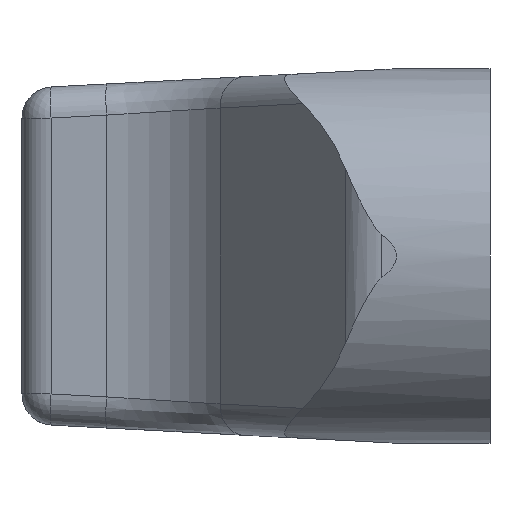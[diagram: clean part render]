
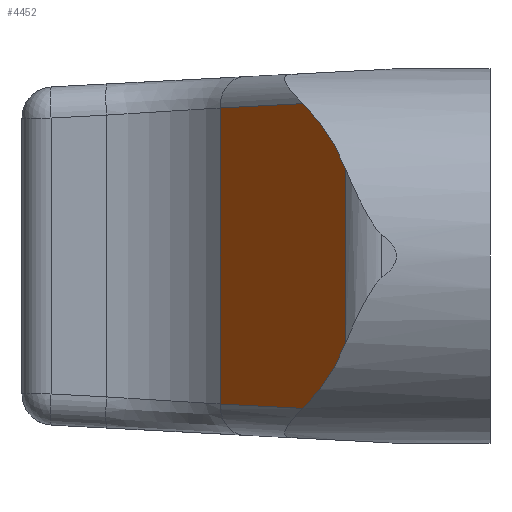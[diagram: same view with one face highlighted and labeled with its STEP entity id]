
A CAD part, left-side view. The second image highlights one B-rep face of the part: STEP entity #4452.
In plain terms, the highlighted planar face has unit normal (-0.602, 0.798, 0).
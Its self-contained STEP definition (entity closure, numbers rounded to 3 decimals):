
#24 = VECTOR ( 'NONE', #249, 1000. ) ;
#66 = CARTESIAN_POINT ( 'NONE',  ( 0.68, 1.621, 2.775 ) ) ;
#143 = VECTOR ( 'NONE', #2760, 1000. ) ;
#202 = FACE_OUTER_BOUND ( 'NONE', #3118, .T. ) ;
#249 = DIRECTION ( 'NONE',  ( 0., 0., -1. ) ) ;
#255 =( BOUNDED_CURVE ( )  B_SPLINE_CURVE ( 3, ( #3621, #2720, #3446, #1525 ),
 .UNSPECIFIED., .F., .F. ) 
 B_SPLINE_CURVE_WITH_KNOTS ( ( 4, 4 ),
 ( 0.481, 0.951 ),
 .UNSPECIFIED. ) 
 CURVE ( )  GEOMETRIC_REPRESENTATION_ITEM ( )  RATIONAL_B_SPLINE_CURVE ( ( 1., 0.982, 0.982, 1. ) ) 
 REPRESENTATION_ITEM ( '' )  );
#300 = VERTEX_POINT ( 'NONE', #66 ) ;
#539 = CARTESIAN_POINT ( 'NONE',  ( 6.001, 5.633, 4.745 ) ) ;
#569 = CARTESIAN_POINT ( 'NONE',  ( 2.514, 3.003, 4.883 ) ) ;
#634 = DIRECTION ( 'NONE',  ( 0.602, -0.798, 0. ) ) ;
#743 = CARTESIAN_POINT ( 'NONE',  ( 0.68, 1.621, 6. ) ) ;
#805 = CARTESIAN_POINT ( 'NONE',  ( 0.68, 1.621, 2.775 ) ) ;
#824 = CARTESIAN_POINT ( 'NONE',  ( 1.119, 1.952, 3.616 ) ) ;
#836 = ORIENTED_EDGE ( 'NONE', *, *, #3046, .F. ) ;
#1027 = AXIS2_PLACEMENT_3D ( 'NONE', #2876, #634, #3255 ) ;
#1165 = EDGE_CURVE ( 'NONE', #1816, #4530, #3865, .T. ) ;
#1243 = VERTEX_POINT ( 'NONE', #1875 ) ;
#1255 =( BOUNDED_CURVE ( )  B_SPLINE_CURVE ( 3, ( #1507, #1887, #824, #805 ),
 .UNSPECIFIED., .F., .F. ) 
 B_SPLINE_CURVE_WITH_KNOTS ( ( 4, 4 ),
 ( 5.332, 5.802 ),
 .UNSPECIFIED. ) 
 CURVE ( )  GEOMETRIC_REPRESENTATION_ITEM ( )  RATIONAL_B_SPLINE_CURVE ( ( 1., 0.982, 0.982, 1. ) ) 
 REPRESENTATION_ITEM ( '' )  );
#1313 = EDGE_CURVE ( 'NONE', #1816, #1243, #3268, .T. ) ;
#1342 = EDGE_CURVE ( 'NONE', #3454, #1243, #4066, .T. ) ;
#1507 = CARTESIAN_POINT ( 'NONE',  ( 2.514, 3.003, 4.883 ) ) ;
#1525 = CARTESIAN_POINT ( 'NONE',  ( 2.514, 3.003, -4.883 ) ) ;
#1691 = EDGE_CURVE ( 'NONE', #3508, #3454, #255, .T. ) ;
#1751 = ORIENTED_EDGE ( 'NONE', *, *, #1165, .F. ) ;
#1757 = ORIENTED_EDGE ( 'NONE', *, *, #2988, .F. ) ;
#1760 = CARTESIAN_POINT ( 'NONE',  ( 2.514, 3.003, -4.883 ) ) ;
#1816 = VERTEX_POINT ( 'NONE', #2558 ) ;
#1875 = CARTESIAN_POINT ( 'NONE',  ( 6.025, 5.651, -4.744 ) ) ;
#1887 = CARTESIAN_POINT ( 'NONE',  ( 1.742, 2.421, 4.332 ) ) ;
#2045 = VECTOR ( 'NONE', #4549, 1000. ) ;
#2134 = VECTOR ( 'NONE', #4485, 1000. ) ;
#2473 = PLANE ( 'NONE',  #1027 ) ;
#2491 = CARTESIAN_POINT ( 'NONE',  ( 0.68, 1.621, -2.775 ) ) ;
#2558 = CARTESIAN_POINT ( 'NONE',  ( 6.025, 5.651, 4.744 ) ) ;
#2720 = CARTESIAN_POINT ( 'NONE',  ( 1.119, 1.952, -3.616 ) ) ;
#2760 = DIRECTION ( 'NONE',  ( 0.798, 0.602, 0.032 ) ) ;
#2876 = CARTESIAN_POINT ( 'NONE',  ( 6.025, 5.651, 6. ) ) ;
#2988 = EDGE_CURVE ( 'NONE', #4530, #300, #1255, .T. ) ;
#3012 = ORIENTED_EDGE ( 'NONE', *, *, #1313, .T. ) ;
#3046 = EDGE_CURVE ( 'NONE', #300, #3508, #3960, .T. ) ;
#3118 = EDGE_LOOP ( 'NONE', ( #1757, #1751, #3012, #3199, #3989, #836 ) ) ;
#3199 = ORIENTED_EDGE ( 'NONE', *, *, #1342, .F. ) ;
#3255 = DIRECTION ( 'NONE',  ( 0.798, 0.602, 0. ) ) ;
#3268 = LINE ( 'NONE', #4503, #2134 ) ;
#3446 = CARTESIAN_POINT ( 'NONE',  ( 1.742, 2.421, -4.332 ) ) ;
#3453 = CARTESIAN_POINT ( 'NONE',  ( 4.33, 4.373, -4.811 ) ) ;
#3454 = VERTEX_POINT ( 'NONE', #1760 ) ;
#3508 = VERTEX_POINT ( 'NONE', #2491 ) ;
#3621 = CARTESIAN_POINT ( 'NONE',  ( 0.68, 1.621, -2.775 ) ) ;
#3865 = LINE ( 'NONE', #539, #2045 ) ;
#3960 = LINE ( 'NONE', #743, #24 ) ;
#3989 = ORIENTED_EDGE ( 'NONE', *, *, #1691, .F. ) ;
#4066 = LINE ( 'NONE', #3453, #143 ) ;
#4452 = ADVANCED_FACE ( 'NONE', ( #202 ), #2473, .F. ) ;
#4485 = DIRECTION ( 'NONE',  ( 0., 0., -1. ) ) ;
#4503 = CARTESIAN_POINT ( 'NONE',  ( 6.025, 5.651, 6. ) ) ;
#4530 = VERTEX_POINT ( 'NONE', #569 ) ;
#4549 = DIRECTION ( 'NONE',  ( -0.798, -0.602, 0.032 ) ) ;
